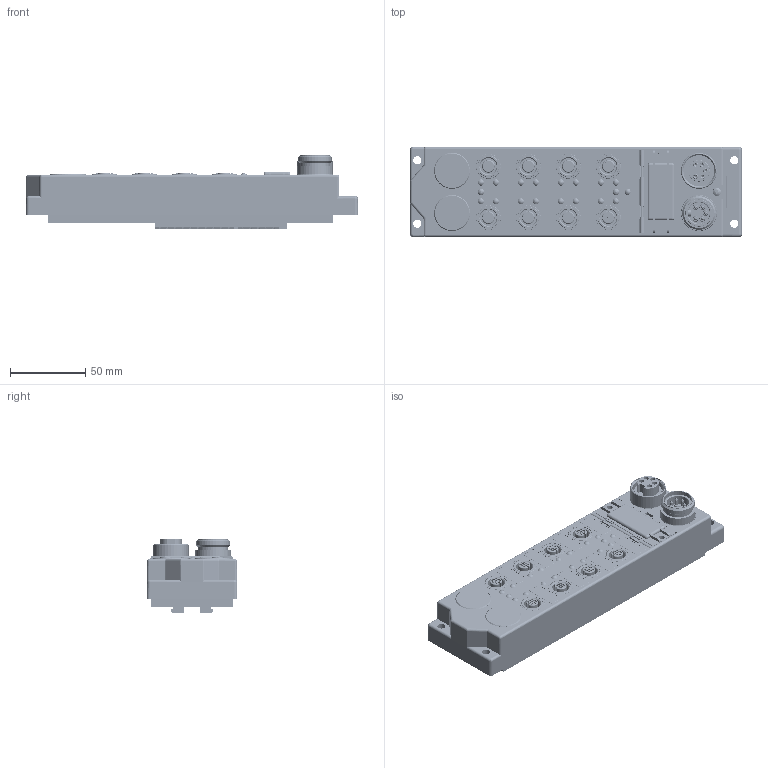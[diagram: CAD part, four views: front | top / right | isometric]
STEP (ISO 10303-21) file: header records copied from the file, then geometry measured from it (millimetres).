
FILE_DESCRIPTION (( 'STEP AP203' ), '1' );
FILE_NAME ('FDNL-XSG16-ST.step', '2012-07-30T21:14:28', ( 'Turck User' ), ( '' ), 'SwSTEP 2.0', 'SolidWorks 2012', '' );
FILE_SCHEMA (( 'CONFIG_CONTROL_DESIGN' ));
Products named in the file (1): FDNL-XSG16-ST
Bounding box: 220 x 60 x 49.26 mm (x, y, z)
Volume: 256449 mm3; surface area: 133819.9 mm2
Topology: 1 solids, 110 shells, 5006 faces, 12589 edges, 7933 vertices
Faces by surface type: plane 2557, cylinder 1514, cone 489, torus 290, sphere 86, bspline 70
Entity records: 156542 total; most frequent: CARTESIAN_POINT 35247, DIRECTION 25666, ORIENTED_EDGE 24890, EDGE_CURVE 12445, AXIS2_PLACEMENT_3D 9118, VERTEX_POINT 7933, VECTOR 7430, LINE 7430
